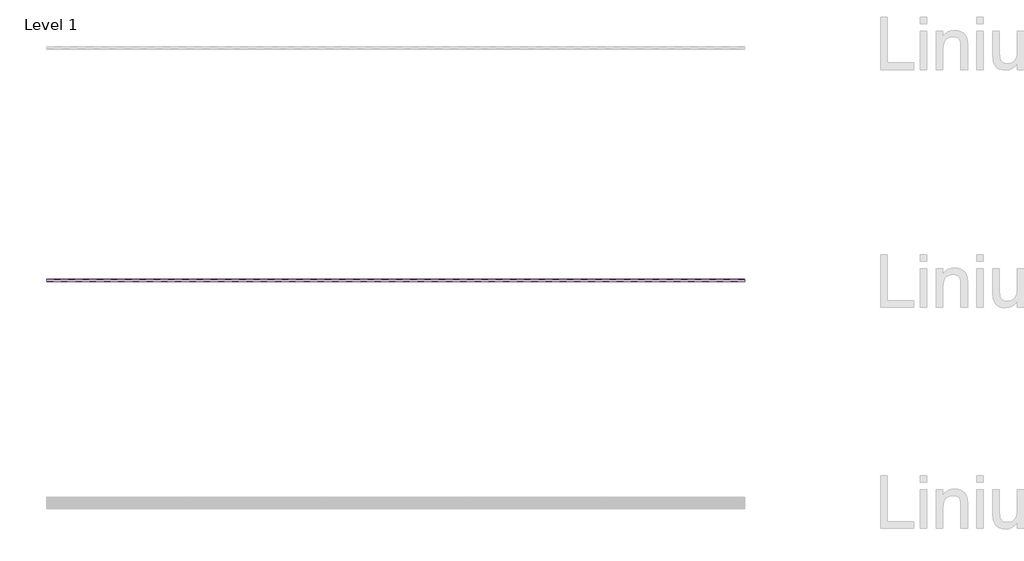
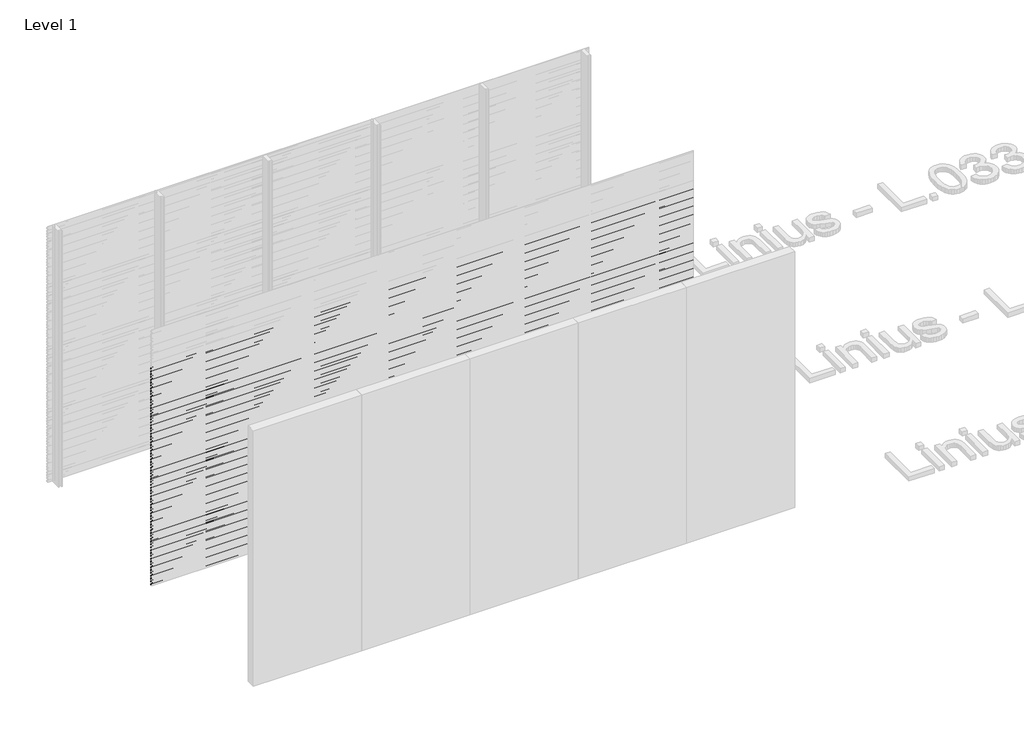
# One storey, part 16 of 507: 77 proxies.
"""IFC4 building model written with IfcOpenShell, lengths in millimetres."""

from ifc_helpers import new_model, si_unit, frame, origin, place, context, project, spatial, polyline, outline, extrude, element, save

model = new_model("IFC4")

# Units and contexts
model_context = context("Model", 3, world=origin())
ifc_project = project(units=[si_unit("LENGTHUNIT", "METRE", prefix="MILLI")], contexts=[model_context])

# Site, building, storey
site = spatial("IfcSite", under=ifc_project)
building = spatial("IfcBuilding", under=site)
storey = spatial("IfcBuildingStorey", under=building, Name="Level 1", Elevation=0.0)

# Proxies
placement = place(None, origin())
element("IfcBuildingElementProxy", 1, Name="Wall Sweeps", at=placement, inside=storey, context=model_context, shape_type="SweptSolid", body=[
    extrude(outline(polyline([(12003.4540136, 2540.1), (12003.4540136, 2526.6), (12002.2040136, 2527.3216933), (12002.2040136, 2539.3782281), (11983.0540136, 2550.4345698), (11983.0540136, 2564.1), (11984.3040136, 2564.1), (11984.3040136, 2551.1562577), (12003.4540136, 2540.1)])), frame((44966.6208097, 0.0, 0.0), z_axis=(1.0, 0.0, 0.0), x_axis=(0.0, 1.0, 0.0)), (0.0, 0.0, 1.0), 6000.0),
])
element("IfcBuildingElementProxy", 2, Name="Wall Sweeps", at=placement, inside=storey, context=model_context, shape_type="SweptSolid", body=[
    extrude(outline(polyline([(12003.4540136, 2506.8), (12003.4540136, 2493.3), (12002.2040136, 2494.0216933), (12002.2040136, 2506.0782281), (11983.0540136, 2517.1345698), (11983.0540136, 2530.8), (11984.3040136, 2530.8), (11984.3040136, 2517.8562577), (12003.4540136, 2506.8)])), frame((44966.6208097, 0.0, 0.0), z_axis=(1.0, 0.0, 0.0), x_axis=(0.0, 1.0, 0.0)), (0.0, 0.0, 1.0), 6000.0),
])
element("IfcBuildingElementProxy", 3, Name="Wall Sweeps", at=placement, inside=storey, context=model_context, shape_type="SweptSolid", body=[
    extrude(outline(polyline([(12003.4540136, 2473.5), (12003.4540136, 2460.0), (12002.2040136, 2460.7216933), (12002.2040136, 2472.7782281), (11983.0540136, 2483.8345698), (11983.0540136, 2497.5), (11984.3040136, 2497.5), (11984.3040136, 2484.5562577), (12003.4540136, 2473.5)])), frame((44966.6208097, 0.0, 0.0), z_axis=(1.0, 0.0, 0.0), x_axis=(0.0, 1.0, 0.0)), (0.0, 0.0, 1.0), 6000.0),
])
element("IfcBuildingElementProxy", 4, Name="Wall Sweeps", at=placement, inside=storey, context=model_context, shape_type="SweptSolid", body=[
    extrude(outline(polyline([(12003.4540136, 2440.2), (12003.4540136, 2426.7), (12002.2040136, 2427.4216933), (12002.2040136, 2439.4782281), (11983.0540136, 2450.5345698), (11983.0540136, 2464.2), (11984.3040136, 2464.2), (11984.3040136, 2451.2562577), (12003.4540136, 2440.2)])), frame((44966.6208097, 0.0, 0.0), z_axis=(1.0, 0.0, 0.0), x_axis=(0.0, 1.0, 0.0)), (0.0, 0.0, 1.0), 6000.0),
])
element("IfcBuildingElementProxy", 5, Name="Wall Sweeps", at=placement, inside=storey, context=model_context, shape_type="SweptSolid", body=[
    extrude(outline(polyline([(12003.4540136, 2406.9), (12003.4540136, 2393.4), (12002.2040136, 2394.1216933), (12002.2040136, 2406.1782281), (11983.0540136, 2417.2345698), (11983.0540136, 2430.9), (11984.3040136, 2430.9), (11984.3040136, 2417.9562577), (12003.4540136, 2406.9)])), frame((44966.6208097, 0.0, 0.0), z_axis=(1.0, 0.0, 0.0), x_axis=(0.0, 1.0, 0.0)), (0.0, 0.0, 1.0), 6000.0),
])
element("IfcBuildingElementProxy", 6, Name="Wall Sweeps", at=placement, inside=storey, context=model_context, shape_type="SweptSolid", body=[
    extrude(outline(polyline([(12003.4540136, 2373.6), (12003.4540136, 2360.1), (12002.2040136, 2360.8216933), (12002.2040136, 2372.8782281), (11983.0540136, 2383.9345698), (11983.0540136, 2397.6), (11984.3040136, 2397.6), (11984.3040136, 2384.6562577), (12003.4540136, 2373.6)])), frame((44966.6208097, 0.0, 0.0), z_axis=(1.0, 0.0, 0.0), x_axis=(0.0, 1.0, 0.0)), (0.0, 0.0, 1.0), 6000.0),
])
element("IfcBuildingElementProxy", 7, Name="Wall Sweeps", at=placement, inside=storey, context=model_context, shape_type="SweptSolid", body=[
    extrude(outline(polyline([(12003.4540136, 2340.3), (12003.4540136, 2326.8), (12002.2040136, 2327.5216933), (12002.2040136, 2339.5782281), (11983.0540136, 2350.6345698), (11983.0540136, 2364.3), (11984.3040136, 2364.3), (11984.3040136, 2351.3562577), (12003.4540136, 2340.3)])), frame((44966.6208097, 0.0, 0.0), z_axis=(1.0, 0.0, 0.0), x_axis=(0.0, 1.0, 0.0)), (0.0, 0.0, 1.0), 6000.0),
])
element("IfcBuildingElementProxy", 8, Name="Wall Sweeps", at=placement, inside=storey, context=model_context, shape_type="SweptSolid", body=[
    extrude(outline(polyline([(12003.4540136, 2307.0), (12003.4540136, 2293.5), (12002.2040136, 2294.2216933), (12002.2040136, 2306.2782281), (11983.0540136, 2317.3345698), (11983.0540136, 2331.0), (11984.3040136, 2331.0), (11984.3040136, 2318.0562577), (12003.4540136, 2307.0)])), frame((44966.6208097, 0.0, 0.0), z_axis=(1.0, 0.0, 0.0), x_axis=(0.0, 1.0, 0.0)), (0.0, 0.0, 1.0), 6000.0),
])
element("IfcBuildingElementProxy", 9, Name="Wall Sweeps", at=placement, inside=storey, context=model_context, shape_type="SweptSolid", body=[
    extrude(outline(polyline([(12003.4540136, 2273.7), (12003.4540136, 2260.2), (12002.2040136, 2260.9216933), (12002.2040136, 2272.9782281), (11983.0540136, 2284.0345698), (11983.0540136, 2297.7), (11984.3040136, 2297.7), (11984.3040136, 2284.7562577), (12003.4540136, 2273.7)])), frame((44966.6208097, 0.0, 0.0), z_axis=(1.0, 0.0, 0.0), x_axis=(0.0, 1.0, 0.0)), (0.0, 0.0, 1.0), 6000.0),
])
element("IfcBuildingElementProxy", 10, Name="Wall Sweeps", at=placement, inside=storey, context=model_context, shape_type="SweptSolid", body=[
    extrude(outline(polyline([(12003.4540136, 2240.4), (12003.4540136, 2226.9), (12002.2040136, 2227.6216933), (12002.2040136, 2239.6782281), (11983.0540136, 2250.7345698), (11983.0540136, 2264.4), (11984.3040136, 2264.4), (11984.3040136, 2251.4562577), (12003.4540136, 2240.4)])), frame((44966.6208097, 0.0, 0.0), z_axis=(1.0, 0.0, 0.0), x_axis=(0.0, 1.0, 0.0)), (0.0, 0.0, 1.0), 6000.0),
])
element("IfcBuildingElementProxy", 11, Name="Wall Sweeps", at=placement, inside=storey, context=model_context, shape_type="SweptSolid", body=[
    extrude(outline(polyline([(12003.4540136, 2207.1), (12003.4540136, 2193.6), (12002.2040136, 2194.3216933), (12002.2040136, 2206.3782281), (11983.0540136, 2217.4345698), (11983.0540136, 2231.1), (11984.3040136, 2231.1), (11984.3040136, 2218.1562577), (12003.4540136, 2207.1)])), frame((44966.6208097, 0.0, 0.0), z_axis=(1.0, 0.0, 0.0), x_axis=(0.0, 1.0, 0.0)), (0.0, 0.0, 1.0), 6000.0),
])
element("IfcBuildingElementProxy", 12, Name="Wall Sweeps", at=placement, inside=storey, context=model_context, shape_type="SweptSolid", body=[
    extrude(outline(polyline([(12003.4540136, 2173.8), (12003.4540136, 2160.3), (12002.2040136, 2161.0216933), (12002.2040136, 2173.0782281), (11983.0540136, 2184.1345698), (11983.0540136, 2197.8), (11984.3040136, 2197.8), (11984.3040136, 2184.8562577), (12003.4540136, 2173.8)])), frame((44966.6208097, 0.0, 0.0), z_axis=(1.0, 0.0, 0.0), x_axis=(0.0, 1.0, 0.0)), (0.0, 0.0, 1.0), 6000.0),
])
element("IfcBuildingElementProxy", 13, Name="Wall Sweeps", at=placement, inside=storey, context=model_context, shape_type="SweptSolid", body=[
    extrude(outline(polyline([(12003.4540136, 2140.5), (12003.4540136, 2127.0), (12002.2040136, 2127.7216933), (12002.2040136, 2139.7782281), (11983.0540136, 2150.8345698), (11983.0540136, 2164.5), (11984.3040136, 2164.5), (11984.3040136, 2151.5562577), (12003.4540136, 2140.5)])), frame((44966.6208097, 0.0, 0.0), z_axis=(1.0, 0.0, 0.0), x_axis=(0.0, 1.0, 0.0)), (0.0, 0.0, 1.0), 6000.0),
])
element("IfcBuildingElementProxy", 14, Name="Wall Sweeps", at=placement, inside=storey, context=model_context, shape_type="SweptSolid", body=[
    extrude(outline(polyline([(12003.4540136, 2107.2), (12003.4540136, 2093.7), (12002.2040136, 2094.4216933), (12002.2040136, 2106.4782281), (11983.0540136, 2117.5345698), (11983.0540136, 2131.2), (11984.3040136, 2131.2), (11984.3040136, 2118.2562577), (12003.4540136, 2107.2)])), frame((44966.6208097, 0.0, 0.0), z_axis=(1.0, 0.0, 0.0), x_axis=(0.0, 1.0, 0.0)), (0.0, 0.0, 1.0), 6000.0),
])
element("IfcBuildingElementProxy", 15, Name="Wall Sweeps", at=placement, inside=storey, context=model_context, shape_type="SweptSolid", body=[
    extrude(outline(polyline([(12003.4540136, 2073.9), (12003.4540136, 2060.4), (12002.2040136, 2061.1216933), (12002.2040136, 2073.1782281), (11983.0540136, 2084.2345698), (11983.0540136, 2097.9), (11984.3040136, 2097.9), (11984.3040136, 2084.9562577), (12003.4540136, 2073.9)])), frame((44966.6208097, 0.0, 0.0), z_axis=(1.0, 0.0, 0.0), x_axis=(0.0, 1.0, 0.0)), (0.0, 0.0, 1.0), 6000.0),
])
element("IfcBuildingElementProxy", 16, Name="Wall Sweeps", at=placement, inside=storey, context=model_context, shape_type="SweptSolid", body=[
    extrude(outline(polyline([(12003.4540136, 2040.6), (12003.4540136, 2027.1), (12002.2040136, 2027.8216933), (12002.2040136, 2039.8782281), (11983.0540136, 2050.9345698), (11983.0540136, 2064.6), (11984.3040136, 2064.6), (11984.3040136, 2051.6562577), (12003.4540136, 2040.6)])), frame((44966.6208097, 0.0, 0.0), z_axis=(1.0, 0.0, 0.0), x_axis=(0.0, 1.0, 0.0)), (0.0, 0.0, 1.0), 6000.0),
])
element("IfcBuildingElementProxy", 17, Name="Wall Sweeps", at=placement, inside=storey, context=model_context, shape_type="SweptSolid", body=[
    extrude(outline(polyline([(12003.4540136, 2007.3), (12003.4540136, 1993.8), (12002.2040136, 1994.5216933), (12002.2040136, 2006.5782281), (11983.0540136, 2017.6345698), (11983.0540136, 2031.3), (11984.3040136, 2031.3), (11984.3040136, 2018.3562577), (12003.4540136, 2007.3)])), frame((44966.6208097, 0.0, 0.0), z_axis=(1.0, 0.0, 0.0), x_axis=(0.0, 1.0, 0.0)), (0.0, 0.0, 1.0), 6000.0),
])
element("IfcBuildingElementProxy", 18, Name="Wall Sweeps", at=placement, inside=storey, context=model_context, shape_type="SweptSolid", body=[
    extrude(outline(polyline([(12003.4540136, 1974.0), (12003.4540136, 1960.5), (12002.2040136, 1961.2216933), (12002.2040136, 1973.2782281), (11983.0540136, 1984.3345698), (11983.0540136, 1998.0), (11984.3040136, 1998.0), (11984.3040136, 1985.0562577), (12003.4540136, 1974.0)])), frame((44966.6208097, 0.0, 0.0), z_axis=(1.0, 0.0, 0.0), x_axis=(0.0, 1.0, 0.0)), (0.0, 0.0, 1.0), 6000.0),
])
element("IfcBuildingElementProxy", 19, Name="Wall Sweeps", at=placement, inside=storey, context=model_context, shape_type="SweptSolid", body=[
    extrude(outline(polyline([(12003.4540136, 1940.7), (12003.4540136, 1927.2), (12002.2040136, 1927.9216933), (12002.2040136, 1939.9782281), (11983.0540136, 1951.0345698), (11983.0540136, 1964.7), (11984.3040136, 1964.7), (11984.3040136, 1951.7562577), (12003.4540136, 1940.7)])), frame((44966.6208097, 0.0, 0.0), z_axis=(1.0, 0.0, 0.0), x_axis=(0.0, 1.0, 0.0)), (0.0, 0.0, 1.0), 6000.0),
])
element("IfcBuildingElementProxy", 20, Name="Wall Sweeps", at=placement, inside=storey, context=model_context, shape_type="SweptSolid", body=[
    extrude(outline(polyline([(12003.4540136, 1907.4), (12003.4540136, 1893.9), (12002.2040136, 1894.6216933), (12002.2040136, 1906.6782281), (11983.0540136, 1917.7345698), (11983.0540136, 1931.4), (11984.3040136, 1931.4), (11984.3040136, 1918.4562577), (12003.4540136, 1907.4)])), frame((44966.6208097, 0.0, 0.0), z_axis=(1.0, 0.0, 0.0), x_axis=(0.0, 1.0, 0.0)), (0.0, 0.0, 1.0), 6000.0),
])
element("IfcBuildingElementProxy", 21, Name="Wall Sweeps", at=placement, inside=storey, context=model_context, shape_type="SweptSolid", body=[
    extrude(outline(polyline([(12003.4540136, 1874.1), (12003.4540136, 1860.6), (12002.2040136, 1861.3216933), (12002.2040136, 1873.3782281), (11983.0540136, 1884.4345698), (11983.0540136, 1898.1), (11984.3040136, 1898.1), (11984.3040136, 1885.1562577), (12003.4540136, 1874.1)])), frame((44966.6208097, 0.0, 0.0), z_axis=(1.0, 0.0, 0.0), x_axis=(0.0, 1.0, 0.0)), (0.0, 0.0, 1.0), 6000.0),
])
element("IfcBuildingElementProxy", 22, Name="Wall Sweeps", at=placement, inside=storey, context=model_context, shape_type="SweptSolid", body=[
    extrude(outline(polyline([(12003.4540136, 1840.8), (12003.4540136, 1827.3), (12002.2040136, 1828.0216933), (12002.2040136, 1840.0782281), (11983.0540136, 1851.1345698), (11983.0540136, 1864.8), (11984.3040136, 1864.8), (11984.3040136, 1851.8562577), (12003.4540136, 1840.8)])), frame((44966.6208097, 0.0, 0.0), z_axis=(1.0, 0.0, 0.0), x_axis=(0.0, 1.0, 0.0)), (0.0, 0.0, 1.0), 6000.0),
])
element("IfcBuildingElementProxy", 23, Name="Wall Sweeps", at=placement, inside=storey, context=model_context, shape_type="SweptSolid", body=[
    extrude(outline(polyline([(12003.4540136, 1807.5), (12003.4540136, 1794.0), (12002.2040136, 1794.7216933), (12002.2040136, 1806.7782281), (11983.0540136, 1817.8345698), (11983.0540136, 1831.5), (11984.3040136, 1831.5), (11984.3040136, 1818.5562577), (12003.4540136, 1807.5)])), frame((44966.6208097, 0.0, 0.0), z_axis=(1.0, 0.0, 0.0), x_axis=(0.0, 1.0, 0.0)), (0.0, 0.0, 1.0), 6000.0),
])
element("IfcBuildingElementProxy", 24, Name="Wall Sweeps", at=placement, inside=storey, context=model_context, shape_type="SweptSolid", body=[
    extrude(outline(polyline([(12003.4540136, 1774.2), (12003.4540136, 1760.7), (12002.2040136, 1761.4216933), (12002.2040136, 1773.4782281), (11983.0540136, 1784.5345698), (11983.0540136, 1798.2), (11984.3040136, 1798.2), (11984.3040136, 1785.2562577), (12003.4540136, 1774.2)])), frame((44966.6208097, 0.0, 0.0), z_axis=(1.0, 0.0, 0.0), x_axis=(0.0, 1.0, 0.0)), (0.0, 0.0, 1.0), 6000.0),
])
element("IfcBuildingElementProxy", 25, Name="Wall Sweeps", at=placement, inside=storey, context=model_context, shape_type="SweptSolid", body=[
    extrude(outline(polyline([(12003.4540136, 1740.9), (12003.4540136, 1727.4), (12002.2040136, 1728.1216933), (12002.2040136, 1740.1782281), (11983.0540136, 1751.2345698), (11983.0540136, 1764.9), (11984.3040136, 1764.9), (11984.3040136, 1751.9562577), (12003.4540136, 1740.9)])), frame((44966.6208097, 0.0, 0.0), z_axis=(1.0, 0.0, 0.0), x_axis=(0.0, 1.0, 0.0)), (0.0, 0.0, 1.0), 6000.0),
])
element("IfcBuildingElementProxy", 26, Name="Wall Sweeps", at=placement, inside=storey, context=model_context, shape_type="SweptSolid", body=[
    extrude(outline(polyline([(12003.4540136, 1707.6), (12003.4540136, 1694.1), (12002.2040136, 1694.8216933), (12002.2040136, 1706.8782281), (11983.0540136, 1717.9345698), (11983.0540136, 1731.6), (11984.3040136, 1731.6), (11984.3040136, 1718.6562577), (12003.4540136, 1707.6)])), frame((44966.6208097, 0.0, 0.0), z_axis=(1.0, 0.0, 0.0), x_axis=(0.0, 1.0, 0.0)), (0.0, 0.0, 1.0), 6000.0),
])
element("IfcBuildingElementProxy", 27, Name="Wall Sweeps", at=placement, inside=storey, context=model_context, shape_type="SweptSolid", body=[
    extrude(outline(polyline([(12003.4540136, 1674.3), (12003.4540136, 1660.8), (12002.2040136, 1661.5216933), (12002.2040136, 1673.5782281), (11983.0540136, 1684.6345698), (11983.0540136, 1698.3), (11984.3040136, 1698.3), (11984.3040136, 1685.3562577), (12003.4540136, 1674.3)])), frame((44966.6208097, 0.0, 0.0), z_axis=(1.0, 0.0, 0.0), x_axis=(0.0, 1.0, 0.0)), (0.0, 0.0, 1.0), 6000.0),
])
element("IfcBuildingElementProxy", 28, Name="Wall Sweeps", at=placement, inside=storey, context=model_context, shape_type="SweptSolid", body=[
    extrude(outline(polyline([(12003.4540136, 1641.0), (12003.4540136, 1627.5), (12002.2040136, 1628.2216933), (12002.2040136, 1640.2782281), (11983.0540136, 1651.3345698), (11983.0540136, 1665.0), (11984.3040136, 1665.0), (11984.3040136, 1652.0562577), (12003.4540136, 1641.0)])), frame((44966.6208097, 0.0, 0.0), z_axis=(1.0, 0.0, 0.0), x_axis=(0.0, 1.0, 0.0)), (0.0, 0.0, 1.0), 6000.0),
])
element("IfcBuildingElementProxy", 29, Name="Wall Sweeps", at=placement, inside=storey, context=model_context, shape_type="SweptSolid", body=[
    extrude(outline(polyline([(12003.4540136, 1607.7), (12003.4540136, 1594.2), (12002.2040136, 1594.9216933), (12002.2040136, 1606.9782281), (11983.0540136, 1618.0345698), (11983.0540136, 1631.7), (11984.3040136, 1631.7), (11984.3040136, 1618.7562577), (12003.4540136, 1607.7)])), frame((44966.6208097, 0.0, 0.0), z_axis=(1.0, 0.0, 0.0), x_axis=(0.0, 1.0, 0.0)), (0.0, 0.0, 1.0), 6000.0),
])
element("IfcBuildingElementProxy", 30, Name="Wall Sweeps", at=placement, inside=storey, context=model_context, shape_type="SweptSolid", body=[
    extrude(outline(polyline([(12003.4540136, 1574.4), (12003.4540136, 1560.9), (12002.2040136, 1561.6216933), (12002.2040136, 1573.6782281), (11983.0540136, 1584.7345698), (11983.0540136, 1598.4), (11984.3040136, 1598.4), (11984.3040136, 1585.4562577), (12003.4540136, 1574.4)])), frame((44966.6208097, 0.0, 0.0), z_axis=(1.0, 0.0, 0.0), x_axis=(0.0, 1.0, 0.0)), (0.0, 0.0, 1.0), 6000.0),
])
element("IfcBuildingElementProxy", 31, Name="Wall Sweeps", at=placement, inside=storey, context=model_context, shape_type="SweptSolid", body=[
    extrude(outline(polyline([(12003.4540136, 1541.1), (12003.4540136, 1527.6), (12002.2040136, 1528.3216933), (12002.2040136, 1540.3782281), (11983.0540136, 1551.4345698), (11983.0540136, 1565.1), (11984.3040136, 1565.1), (11984.3040136, 1552.1562577), (12003.4540136, 1541.1)])), frame((44966.6208097, 0.0, 0.0), z_axis=(1.0, 0.0, 0.0), x_axis=(0.0, 1.0, 0.0)), (0.0, 0.0, 1.0), 6000.0),
])
element("IfcBuildingElementProxy", 32, Name="Wall Sweeps", at=placement, inside=storey, context=model_context, shape_type="SweptSolid", body=[
    extrude(outline(polyline([(12003.4540136, 1507.8), (12003.4540136, 1494.3), (12002.2040136, 1495.0216933), (12002.2040136, 1507.0782281), (11983.0540136, 1518.1345698), (11983.0540136, 1531.8), (11984.3040136, 1531.8), (11984.3040136, 1518.8562577), (12003.4540136, 1507.8)])), frame((44966.6208097, 0.0, 0.0), z_axis=(1.0, 0.0, 0.0), x_axis=(0.0, 1.0, 0.0)), (0.0, 0.0, 1.0), 6000.0),
])
element("IfcBuildingElementProxy", 33, Name="Wall Sweeps", at=placement, inside=storey, context=model_context, shape_type="SweptSolid", body=[
    extrude(outline(polyline([(12003.4540136, 1474.5), (12003.4540136, 1461.0), (12002.2040136, 1461.7216933), (12002.2040136, 1473.7782281), (11983.0540136, 1484.8345698), (11983.0540136, 1498.5), (11984.3040136, 1498.5), (11984.3040136, 1485.5562577), (12003.4540136, 1474.5)])), frame((44966.6208097, 0.0, 0.0), z_axis=(1.0, 0.0, 0.0), x_axis=(0.0, 1.0, 0.0)), (0.0, 0.0, 1.0), 6000.0),
])
element("IfcBuildingElementProxy", 34, Name="Wall Sweeps", at=placement, inside=storey, context=model_context, shape_type="SweptSolid", body=[
    extrude(outline(polyline([(12003.4540136, 1441.2), (12003.4540136, 1427.7), (12002.2040136, 1428.4216933), (12002.2040136, 1440.4782281), (11983.0540136, 1451.5345698), (11983.0540136, 1465.2), (11984.3040136, 1465.2), (11984.3040136, 1452.2562577), (12003.4540136, 1441.2)])), frame((44966.6208097, 0.0, 0.0), z_axis=(1.0, 0.0, 0.0), x_axis=(0.0, 1.0, 0.0)), (0.0, 0.0, 1.0), 6000.0),
])
element("IfcBuildingElementProxy", 35, Name="Wall Sweeps", at=placement, inside=storey, context=model_context, shape_type="SweptSolid", body=[
    extrude(outline(polyline([(12003.4540136, 1407.9), (12003.4540136, 1394.4), (12002.2040136, 1395.1216933), (12002.2040136, 1407.1782281), (11983.0540136, 1418.2345698), (11983.0540136, 1431.9), (11984.3040136, 1431.9), (11984.3040136, 1418.9562577), (12003.4540136, 1407.9)])), frame((44966.6208097, 0.0, 0.0), z_axis=(1.0, 0.0, 0.0), x_axis=(0.0, 1.0, 0.0)), (0.0, 0.0, 1.0), 6000.0),
])
element("IfcBuildingElementProxy", 36, Name="Wall Sweeps", at=placement, inside=storey, context=model_context, shape_type="SweptSolid", body=[
    extrude(outline(polyline([(12003.4540136, 1374.6), (12003.4540136, 1361.1), (12002.2040136, 1361.8216933), (12002.2040136, 1373.8782281), (11983.0540136, 1384.9345698), (11983.0540136, 1398.6), (11984.3040136, 1398.6), (11984.3040136, 1385.6562577), (12003.4540136, 1374.6)])), frame((44966.6208097, 0.0, 0.0), z_axis=(1.0, 0.0, 0.0), x_axis=(0.0, 1.0, 0.0)), (0.0, 0.0, 1.0), 6000.0),
])
element("IfcBuildingElementProxy", 37, Name="Wall Sweeps", at=placement, inside=storey, context=model_context, shape_type="SweptSolid", body=[
    extrude(outline(polyline([(12003.4540136, 1341.3), (12003.4540136, 1327.8), (12002.2040136, 1328.5216933), (12002.2040136, 1340.5782281), (11983.0540136, 1351.6345698), (11983.0540136, 1365.3), (11984.3040136, 1365.3), (11984.3040136, 1352.3562577), (12003.4540136, 1341.3)])), frame((44966.6208097, 0.0, 0.0), z_axis=(1.0, 0.0, 0.0), x_axis=(0.0, 1.0, 0.0)), (0.0, 0.0, 1.0), 6000.0),
])
element("IfcBuildingElementProxy", 38, Name="Wall Sweeps", at=placement, inside=storey, context=model_context, shape_type="SweptSolid", body=[
    extrude(outline(polyline([(12003.4540136, 1308.0), (12003.4540136, 1294.5), (12002.2040136, 1295.2216933), (12002.2040136, 1307.2782281), (11983.0540136, 1318.3345698), (11983.0540136, 1332.0), (11984.3040136, 1332.0), (11984.3040136, 1319.0562577), (12003.4540136, 1308.0)])), frame((44966.6208097, 0.0, 0.0), z_axis=(1.0, 0.0, 0.0), x_axis=(0.0, 1.0, 0.0)), (0.0, 0.0, 1.0), 6000.0),
])
element("IfcBuildingElementProxy", 39, Name="Wall Sweeps", at=placement, inside=storey, context=model_context, shape_type="SweptSolid", body=[
    extrude(outline(polyline([(12003.4540136, 1274.7), (12003.4540136, 1261.2), (12002.2040136, 1261.9216933), (12002.2040136, 1273.9782281), (11983.0540136, 1285.0345698), (11983.0540136, 1298.7), (11984.3040136, 1298.7), (11984.3040136, 1285.7562577), (12003.4540136, 1274.7)])), frame((44966.6208097, 0.0, 0.0), z_axis=(1.0, 0.0, 0.0), x_axis=(0.0, 1.0, 0.0)), (0.0, 0.0, 1.0), 6000.0),
])
element("IfcBuildingElementProxy", 40, Name="Wall Sweeps", at=placement, inside=storey, context=model_context, shape_type="SweptSolid", body=[
    extrude(outline(polyline([(12003.4540136, 1241.4), (12003.4540136, 1227.9), (12002.2040136, 1228.6216933), (12002.2040136, 1240.6782281), (11983.0540136, 1251.7345698), (11983.0540136, 1265.4), (11984.3040136, 1265.4), (11984.3040136, 1252.4562577), (12003.4540136, 1241.4)])), frame((44966.6208097, 0.0, 0.0), z_axis=(1.0, 0.0, 0.0), x_axis=(0.0, 1.0, 0.0)), (0.0, 0.0, 1.0), 6000.0),
])
element("IfcBuildingElementProxy", 41, Name="Wall Sweeps", at=placement, inside=storey, context=model_context, shape_type="SweptSolid", body=[
    extrude(outline(polyline([(12003.4540136, 1208.1), (12003.4540136, 1194.6), (12002.2040136, 1195.3216933), (12002.2040136, 1207.3782281), (11983.0540136, 1218.4345698), (11983.0540136, 1232.1), (11984.3040136, 1232.1), (11984.3040136, 1219.1562577), (12003.4540136, 1208.1)])), frame((44966.6208097, 0.0, 0.0), z_axis=(1.0, 0.0, 0.0), x_axis=(0.0, 1.0, 0.0)), (0.0, 0.0, 1.0), 6000.0),
])
element("IfcBuildingElementProxy", 42, Name="Wall Sweeps", at=placement, inside=storey, context=model_context, shape_type="SweptSolid", body=[
    extrude(outline(polyline([(12003.4540136, 1174.8), (12003.4540136, 1161.3), (12002.2040136, 1162.0216933), (12002.2040136, 1174.0782281), (11983.0540136, 1185.1345698), (11983.0540136, 1198.8), (11984.3040136, 1198.8), (11984.3040136, 1185.8562577), (12003.4540136, 1174.8)])), frame((44966.6208097, 0.0, 0.0), z_axis=(1.0, 0.0, 0.0), x_axis=(0.0, 1.0, 0.0)), (0.0, 0.0, 1.0), 6000.0),
])
element("IfcBuildingElementProxy", 43, Name="Wall Sweeps", at=placement, inside=storey, context=model_context, shape_type="SweptSolid", body=[
    extrude(outline(polyline([(12003.4540136, 1141.5), (12003.4540136, 1128.0), (12002.2040136, 1128.7216933), (12002.2040136, 1140.7782281), (11983.0540136, 1151.8345698), (11983.0540136, 1165.5), (11984.3040136, 1165.5), (11984.3040136, 1152.5562577), (12003.4540136, 1141.5)])), frame((44966.6208097, 0.0, 0.0), z_axis=(1.0, 0.0, 0.0), x_axis=(0.0, 1.0, 0.0)), (0.0, 0.0, 1.0), 6000.0),
])
element("IfcBuildingElementProxy", 44, Name="Wall Sweeps", at=placement, inside=storey, context=model_context, shape_type="SweptSolid", body=[
    extrude(outline(polyline([(12003.4540136, 1108.2), (12003.4540136, 1094.7), (12002.2040136, 1095.4216933), (12002.2040136, 1107.4782281), (11983.0540136, 1118.5345698), (11983.0540136, 1132.2), (11984.3040136, 1132.2), (11984.3040136, 1119.2562577), (12003.4540136, 1108.2)])), frame((44966.6208097, 0.0, 0.0), z_axis=(1.0, 0.0, 0.0), x_axis=(0.0, 1.0, 0.0)), (0.0, 0.0, 1.0), 6000.0),
])
element("IfcBuildingElementProxy", 45, Name="Wall Sweeps", at=placement, inside=storey, context=model_context, shape_type="SweptSolid", body=[
    extrude(outline(polyline([(12003.4540136, 1074.9), (12003.4540136, 1061.4), (12002.2040136, 1062.1216933), (12002.2040136, 1074.1782281), (11983.0540136, 1085.2345698), (11983.0540136, 1098.9), (11984.3040136, 1098.9), (11984.3040136, 1085.9562577), (12003.4540136, 1074.9)])), frame((44966.6208097, 0.0, 0.0), z_axis=(1.0, 0.0, 0.0), x_axis=(0.0, 1.0, 0.0)), (0.0, 0.0, 1.0), 6000.0),
])
element("IfcBuildingElementProxy", 46, Name="Wall Sweeps", at=placement, inside=storey, context=model_context, shape_type="SweptSolid", body=[
    extrude(outline(polyline([(12003.4540136, 1041.6), (12003.4540136, 1028.1), (12002.2040136, 1028.8216933), (12002.2040136, 1040.8782281), (11983.0540136, 1051.9345698), (11983.0540136, 1065.6), (11984.3040136, 1065.6), (11984.3040136, 1052.6562577), (12003.4540136, 1041.6)])), frame((44966.6208097, 0.0, 0.0), z_axis=(1.0, 0.0, 0.0), x_axis=(0.0, 1.0, 0.0)), (0.0, 0.0, 1.0), 6000.0),
])
element("IfcBuildingElementProxy", 47, Name="Wall Sweeps", at=placement, inside=storey, context=model_context, shape_type="SweptSolid", body=[
    extrude(outline(polyline([(12003.4540136, 1008.3), (12003.4540136, 994.8), (12002.2040136, 995.5216933), (12002.2040136, 1007.5782281), (11983.0540136, 1018.6345698), (11983.0540136, 1032.3), (11984.3040136, 1032.3), (11984.3040136, 1019.3562577), (12003.4540136, 1008.3)])), frame((44966.6208097, 0.0, 0.0), z_axis=(1.0, 0.0, 0.0), x_axis=(0.0, 1.0, 0.0)), (0.0, 0.0, 1.0), 6000.0),
])
element("IfcBuildingElementProxy", 48, Name="Wall Sweeps", at=placement, inside=storey, context=model_context, shape_type="SweptSolid", body=[
    extrude(outline(polyline([(12003.4540136, 975.0), (12003.4540136, 961.5), (12002.2040136, 962.2216933), (12002.2040136, 974.2782281), (11983.0540136, 985.3345698), (11983.0540136, 999.0), (11984.3040136, 999.0), (11984.3040136, 986.0562577), (12003.4540136, 975.0)])), frame((44966.6208097, 0.0, 0.0), z_axis=(1.0, 0.0, 0.0), x_axis=(0.0, 1.0, 0.0)), (0.0, 0.0, 1.0), 6000.0),
])
element("IfcBuildingElementProxy", 49, Name="Wall Sweeps", at=placement, inside=storey, context=model_context, shape_type="SweptSolid", body=[
    extrude(outline(polyline([(12003.4540136, 941.7), (12003.4540136, 928.2), (12002.2040136, 928.9216933), (12002.2040136, 940.9782281), (11983.0540136, 952.0345698), (11983.0540136, 965.7), (11984.3040136, 965.7), (11984.3040136, 952.7562577), (12003.4540136, 941.7)])), frame((44966.6208097, 0.0, 0.0), z_axis=(1.0, 0.0, 0.0), x_axis=(0.0, 1.0, 0.0)), (0.0, 0.0, 1.0), 6000.0),
])
element("IfcBuildingElementProxy", 50, Name="Wall Sweeps", at=placement, inside=storey, context=model_context, shape_type="SweptSolid", body=[
    extrude(outline(polyline([(12003.4540136, 908.4), (12003.4540136, 894.9), (12002.2040136, 895.6216933), (12002.2040136, 907.6782281), (11983.0540136, 918.7345698), (11983.0540136, 932.4), (11984.3040136, 932.4), (11984.3040136, 919.4562577), (12003.4540136, 908.4)])), frame((44966.6208097, 0.0, 0.0), z_axis=(1.0, 0.0, 0.0), x_axis=(0.0, 1.0, 0.0)), (0.0, 0.0, 1.0), 6000.0),
])
element("IfcBuildingElementProxy", 51, Name="Wall Sweeps", at=placement, inside=storey, context=model_context, shape_type="SweptSolid", body=[
    extrude(outline(polyline([(12003.4540136, 875.1), (12003.4540136, 861.6), (12002.2040136, 862.3216933), (12002.2040136, 874.3782281), (11983.0540136, 885.4345698), (11983.0540136, 899.1), (11984.3040136, 899.1), (11984.3040136, 886.1562577), (12003.4540136, 875.1)])), frame((44966.6208097, 0.0, 0.0), z_axis=(1.0, 0.0, 0.0), x_axis=(0.0, 1.0, 0.0)), (0.0, 0.0, 1.0), 6000.0),
])
element("IfcBuildingElementProxy", 52, Name="Wall Sweeps", at=placement, inside=storey, context=model_context, shape_type="SweptSolid", body=[
    extrude(outline(polyline([(12003.4540136, 841.8), (12003.4540136, 828.3), (12002.2040136, 829.0216933), (12002.2040136, 841.0782281), (11983.0540136, 852.1345698), (11983.0540136, 865.8), (11984.3040136, 865.8), (11984.3040136, 852.8562577), (12003.4540136, 841.8)])), frame((44966.6208097, 0.0, 0.0), z_axis=(1.0, 0.0, 0.0), x_axis=(0.0, 1.0, 0.0)), (0.0, 0.0, 1.0), 6000.0),
])
element("IfcBuildingElementProxy", 53, Name="Wall Sweeps", at=placement, inside=storey, context=model_context, shape_type="SweptSolid", body=[
    extrude(outline(polyline([(12003.4540136, 808.5), (12003.4540136, 795.0), (12002.2040136, 795.7216933), (12002.2040136, 807.7782281), (11983.0540136, 818.8345698), (11983.0540136, 832.5), (11984.3040136, 832.5), (11984.3040136, 819.5562577), (12003.4540136, 808.5)])), frame((44966.6208097, 0.0, 0.0), z_axis=(1.0, 0.0, 0.0), x_axis=(0.0, 1.0, 0.0)), (0.0, 0.0, 1.0), 6000.0),
])
element("IfcBuildingElementProxy", 54, Name="Wall Sweeps", at=placement, inside=storey, context=model_context, shape_type="SweptSolid", body=[
    extrude(outline(polyline([(12003.4540136, 775.2), (12003.4540136, 761.7), (12002.2040136, 762.4216933), (12002.2040136, 774.4782281), (11983.0540136, 785.5345698), (11983.0540136, 799.2), (11984.3040136, 799.2), (11984.3040136, 786.2562577), (12003.4540136, 775.2)])), frame((44966.6208097, 0.0, 0.0), z_axis=(1.0, 0.0, 0.0), x_axis=(0.0, 1.0, 0.0)), (0.0, 0.0, 1.0), 6000.0),
])
element("IfcBuildingElementProxy", 55, Name="Wall Sweeps", at=placement, inside=storey, context=model_context, shape_type="SweptSolid", body=[
    extrude(outline(polyline([(12003.4540136, 741.9), (12003.4540136, 728.4), (12002.2040136, 729.1216933), (12002.2040136, 741.1782281), (11983.0540136, 752.2345698), (11983.0540136, 765.9), (11984.3040136, 765.9), (11984.3040136, 752.9562577), (12003.4540136, 741.9)])), frame((44966.6208097, 0.0, 0.0), z_axis=(1.0, 0.0, 0.0), x_axis=(0.0, 1.0, 0.0)), (0.0, 0.0, 1.0), 6000.0),
])
element("IfcBuildingElementProxy", 56, Name="Wall Sweeps", at=placement, inside=storey, context=model_context, shape_type="SweptSolid", body=[
    extrude(outline(polyline([(12003.4540136, 708.6), (12003.4540136, 695.1), (12002.2040136, 695.8216933), (12002.2040136, 707.8782281), (11983.0540136, 718.9345698), (11983.0540136, 732.6), (11984.3040136, 732.6), (11984.3040136, 719.6562577), (12003.4540136, 708.6)])), frame((44966.6208097, 0.0, 0.0), z_axis=(1.0, 0.0, 0.0), x_axis=(0.0, 1.0, 0.0)), (0.0, 0.0, 1.0), 6000.0),
])
element("IfcBuildingElementProxy", 57, Name="Wall Sweeps", at=placement, inside=storey, context=model_context, shape_type="SweptSolid", body=[
    extrude(outline(polyline([(12003.4540136, 675.3), (12003.4540136, 661.8), (12002.2040136, 662.5216933), (12002.2040136, 674.5782281), (11983.0540136, 685.6345698), (11983.0540136, 699.3), (11984.3040136, 699.3), (11984.3040136, 686.3562577), (12003.4540136, 675.3)])), frame((44966.6208097, 0.0, 0.0), z_axis=(1.0, 0.0, 0.0), x_axis=(0.0, 1.0, 0.0)), (0.0, 0.0, 1.0), 6000.0),
])
element("IfcBuildingElementProxy", 58, Name="Wall Sweeps", at=placement, inside=storey, context=model_context, shape_type="SweptSolid", body=[
    extrude(outline(polyline([(12003.4540136, 642.0), (12003.4540136, 628.5), (12002.2040136, 629.2216933), (12002.2040136, 641.2782281), (11983.0540136, 652.3345698), (11983.0540136, 666.0), (11984.3040136, 666.0), (11984.3040136, 653.0562577), (12003.4540136, 642.0)])), frame((44966.6208097, 0.0, 0.0), z_axis=(1.0, 0.0, 0.0), x_axis=(0.0, 1.0, 0.0)), (0.0, 0.0, 1.0), 6000.0),
])
element("IfcBuildingElementProxy", 59, Name="Wall Sweeps", at=placement, inside=storey, context=model_context, shape_type="SweptSolid", body=[
    extrude(outline(polyline([(12003.4540136, 608.7), (12003.4540136, 595.2), (12002.2040136, 595.9216933), (12002.2040136, 607.9782281), (11983.0540136, 619.0345698), (11983.0540136, 632.7), (11984.3040136, 632.7), (11984.3040136, 619.7562577), (12003.4540136, 608.7)])), frame((44966.6208097, 0.0, 0.0), z_axis=(1.0, 0.0, 0.0), x_axis=(0.0, 1.0, 0.0)), (0.0, 0.0, 1.0), 6000.0),
])
element("IfcBuildingElementProxy", 60, Name="Wall Sweeps", at=placement, inside=storey, context=model_context, shape_type="SweptSolid", body=[
    extrude(outline(polyline([(12003.4540136, 575.4), (12003.4540136, 561.9), (12002.2040136, 562.6216933), (12002.2040136, 574.6782281), (11983.0540136, 585.7345698), (11983.0540136, 599.4), (11984.3040136, 599.4), (11984.3040136, 586.4562577), (12003.4540136, 575.4)])), frame((44966.6208097, 0.0, 0.0), z_axis=(1.0, 0.0, 0.0), x_axis=(0.0, 1.0, 0.0)), (0.0, 0.0, 1.0), 6000.0),
])
element("IfcBuildingElementProxy", 61, Name="Wall Sweeps", at=placement, inside=storey, context=model_context, shape_type="SweptSolid", body=[
    extrude(outline(polyline([(12003.4540136, 542.1), (12003.4540136, 528.6), (12002.2040136, 529.3216933), (12002.2040136, 541.3782281), (11983.0540136, 552.4345698), (11983.0540136, 566.1), (11984.3040136, 566.1), (11984.3040136, 553.1562577), (12003.4540136, 542.1)])), frame((44966.6208097, 0.0, 0.0), z_axis=(1.0, 0.0, 0.0), x_axis=(0.0, 1.0, 0.0)), (0.0, 0.0, 1.0), 6000.0),
])
element("IfcBuildingElementProxy", 62, Name="Wall Sweeps", at=placement, inside=storey, context=model_context, shape_type="SweptSolid", body=[
    extrude(outline(polyline([(12003.4540136, 508.8), (12003.4540136, 495.3), (12002.2040136, 496.0216933), (12002.2040136, 508.0782281), (11983.0540136, 519.1345698), (11983.0540136, 532.8), (11984.3040136, 532.8), (11984.3040136, 519.8562577), (12003.4540136, 508.8)])), frame((44966.6208097, 0.0, 0.0), z_axis=(1.0, 0.0, 0.0), x_axis=(0.0, 1.0, 0.0)), (0.0, 0.0, 1.0), 6000.0),
])
element("IfcBuildingElementProxy", 63, Name="Wall Sweeps", at=placement, inside=storey, context=model_context, shape_type="SweptSolid", body=[
    extrude(outline(polyline([(12003.4540136, 475.5), (12003.4540136, 462.0), (12002.2040136, 462.7216933), (12002.2040136, 474.7782281), (11983.0540136, 485.8345698), (11983.0540136, 499.5), (11984.3040136, 499.5), (11984.3040136, 486.5562577), (12003.4540136, 475.5)])), frame((44966.6208097, 0.0, 0.0), z_axis=(1.0, 0.0, 0.0), x_axis=(0.0, 1.0, 0.0)), (0.0, 0.0, 1.0), 6000.0),
])
element("IfcBuildingElementProxy", 64, Name="Wall Sweeps", at=placement, inside=storey, context=model_context, shape_type="SweptSolid", body=[
    extrude(outline(polyline([(12003.4540136, 442.2), (12003.4540136, 428.7), (12002.2040136, 429.4216933), (12002.2040136, 441.4782281), (11983.0540136, 452.5345698), (11983.0540136, 466.2), (11984.3040136, 466.2), (11984.3040136, 453.2562577), (12003.4540136, 442.2)])), frame((44966.6208097, 0.0, 0.0), z_axis=(1.0, 0.0, 0.0), x_axis=(0.0, 1.0, 0.0)), (0.0, 0.0, 1.0), 6000.0),
])
element("IfcBuildingElementProxy", 65, Name="Wall Sweeps", at=placement, inside=storey, context=model_context, shape_type="SweptSolid", body=[
    extrude(outline(polyline([(12003.4540136, 408.9), (12003.4540136, 395.4), (12002.2040136, 396.1216933), (12002.2040136, 408.1782281), (11983.0540136, 419.2345698), (11983.0540136, 432.9), (11984.3040136, 432.9), (11984.3040136, 419.9562577), (12003.4540136, 408.9)])), frame((44966.6208097, 0.0, 0.0), z_axis=(1.0, 0.0, 0.0), x_axis=(0.0, 1.0, 0.0)), (0.0, 0.0, 1.0), 6000.0),
])
element("IfcBuildingElementProxy", 66, Name="Wall Sweeps", at=placement, inside=storey, context=model_context, shape_type="SweptSolid", body=[
    extrude(outline(polyline([(12003.4540136, 375.6), (12003.4540136, 362.1), (12002.2040136, 362.8216933), (12002.2040136, 374.8782281), (11983.0540136, 385.9345698), (11983.0540136, 399.6), (11984.3040136, 399.6), (11984.3040136, 386.6562577), (12003.4540136, 375.6)])), frame((44966.6208097, 0.0, 0.0), z_axis=(1.0, 0.0, 0.0), x_axis=(0.0, 1.0, 0.0)), (0.0, 0.0, 1.0), 6000.0),
])
element("IfcBuildingElementProxy", 67, Name="Wall Sweeps", at=placement, inside=storey, context=model_context, shape_type="SweptSolid", body=[
    extrude(outline(polyline([(12003.4540136, 342.3), (12003.4540136, 328.8), (12002.2040136, 329.5216933), (12002.2040136, 341.5782281), (11983.0540136, 352.6345698), (11983.0540136, 366.3), (11984.3040136, 366.3), (11984.3040136, 353.3562577), (12003.4540136, 342.3)])), frame((44966.6208097, 0.0, 0.0), z_axis=(1.0, 0.0, 0.0), x_axis=(0.0, 1.0, 0.0)), (0.0, 0.0, 1.0), 6000.0),
])
element("IfcBuildingElementProxy", 68, Name="Wall Sweeps", at=placement, inside=storey, context=model_context, shape_type="SweptSolid", body=[
    extrude(outline(polyline([(12003.4540136, 309.0), (12003.4540136, 295.5), (12002.2040136, 296.2216933), (12002.2040136, 308.2782281), (11983.0540136, 319.3345698), (11983.0540136, 333.0), (11984.3040136, 333.0), (11984.3040136, 320.0562577), (12003.4540136, 309.0)])), frame((44966.6208097, 0.0, 0.0), z_axis=(1.0, 0.0, 0.0), x_axis=(0.0, 1.0, 0.0)), (0.0, 0.0, 1.0), 6000.0),
])
element("IfcBuildingElementProxy", 69, Name="Wall Sweeps", at=placement, inside=storey, context=model_context, shape_type="SweptSolid", body=[
    extrude(outline(polyline([(12003.4540136, 275.7), (12003.4540136, 262.2), (12002.2040136, 262.9216933), (12002.2040136, 274.9782281), (11983.0540136, 286.0345698), (11983.0540136, 299.7), (11984.3040136, 299.7), (11984.3040136, 286.7562577), (12003.4540136, 275.7)])), frame((44966.6208097, 0.0, 0.0), z_axis=(1.0, 0.0, 0.0), x_axis=(0.0, 1.0, 0.0)), (0.0, 0.0, 1.0), 6000.0),
])
element("IfcBuildingElementProxy", 70, Name="Wall Sweeps", at=placement, inside=storey, context=model_context, shape_type="SweptSolid", body=[
    extrude(outline(polyline([(12003.4540136, 242.4), (12003.4540136, 228.9), (12002.2040136, 229.6216933), (12002.2040136, 241.6782281), (11983.0540136, 252.7345698), (11983.0540136, 266.4), (11984.3040136, 266.4), (11984.3040136, 253.4562577), (12003.4540136, 242.4)])), frame((44966.6208097, 0.0, 0.0), z_axis=(1.0, 0.0, 0.0), x_axis=(0.0, 1.0, 0.0)), (0.0, 0.0, 1.0), 6000.0),
])
element("IfcBuildingElementProxy", 71, Name="Wall Sweeps", at=placement, inside=storey, context=model_context, shape_type="SweptSolid", body=[
    extrude(outline(polyline([(12003.4540136, 209.1), (12003.4540136, 195.6), (12002.2040136, 196.3216933), (12002.2040136, 208.3782281), (11983.0540136, 219.4345698), (11983.0540136, 233.1), (11984.3040136, 233.1), (11984.3040136, 220.1562577), (12003.4540136, 209.1)])), frame((44966.6208097, 0.0, 0.0), z_axis=(1.0, 0.0, 0.0), x_axis=(0.0, 1.0, 0.0)), (0.0, 0.0, 1.0), 6000.0),
])
element("IfcBuildingElementProxy", 72, Name="Wall Sweeps", at=placement, inside=storey, context=model_context, shape_type="SweptSolid", body=[
    extrude(outline(polyline([(12003.4540136, 175.8), (12003.4540136, 162.3), (12002.2040136, 163.0216933), (12002.2040136, 175.0782281), (11983.0540136, 186.1345698), (11983.0540136, 199.8), (11984.3040136, 199.8), (11984.3040136, 186.8562577), (12003.4540136, 175.8)])), frame((44966.6208097, 0.0, 0.0), z_axis=(1.0, 0.0, 0.0), x_axis=(0.0, 1.0, 0.0)), (0.0, 0.0, 1.0), 6000.0),
])
element("IfcBuildingElementProxy", 73, Name="Wall Sweeps", at=placement, inside=storey, context=model_context, shape_type="SweptSolid", body=[
    extrude(outline(polyline([(12003.4540136, 142.5), (12003.4540136, 129.0), (12002.2040136, 129.7216933), (12002.2040136, 141.7782281), (11983.0540136, 152.8345698), (11983.0540136, 166.5), (11984.3040136, 166.5), (11984.3040136, 153.5562577), (12003.4540136, 142.5)])), frame((44966.6208097, 0.0, 0.0), z_axis=(1.0, 0.0, 0.0), x_axis=(0.0, 1.0, 0.0)), (0.0, 0.0, 1.0), 6000.0),
])
element("IfcBuildingElementProxy", 74, Name="Wall Sweeps", at=placement, inside=storey, context=model_context, shape_type="SweptSolid", body=[
    extrude(outline(polyline([(12003.4540136, 109.2), (12003.4540136, 95.7), (12002.2040136, 96.4216933), (12002.2040136, 108.4782281), (11983.0540136, 119.5345698), (11983.0540136, 133.2), (11984.3040136, 133.2), (11984.3040136, 120.2562577), (12003.4540136, 109.2)])), frame((44966.6208097, 0.0, 0.0), z_axis=(1.0, 0.0, 0.0), x_axis=(0.0, 1.0, 0.0)), (0.0, 0.0, 1.0), 6000.0),
])
element("IfcBuildingElementProxy", 75, Name="Wall Sweeps", at=placement, inside=storey, context=model_context, shape_type="SweptSolid", body=[
    extrude(outline(polyline([(12003.4540136, 75.9), (12003.4540136, 62.4), (12002.2040136, 63.1216933), (12002.2040136, 75.1782281), (11983.0540136, 86.2345698), (11983.0540136, 99.9), (11984.3040136, 99.9), (11984.3040136, 86.9562577), (12003.4540136, 75.9)])), frame((44966.6208097, 0.0, 0.0), z_axis=(1.0, 0.0, 0.0), x_axis=(0.0, 1.0, 0.0)), (0.0, 0.0, 1.0), 6000.0),
])
element("IfcBuildingElementProxy", 76, Name="Wall Sweeps", at=placement, inside=storey, context=model_context, shape_type="SweptSolid", body=[
    extrude(outline(polyline([(12003.4540136, 42.6), (12003.4540136, 29.1), (12002.2040136, 29.8216933), (12002.2040136, 41.8782281), (11983.0540136, 52.9345698), (11983.0540136, 66.6), (11984.3040136, 66.6), (11984.3040136, 53.6562577), (12003.4540136, 42.6)])), frame((44966.6208097, 0.0, 0.0), z_axis=(1.0, 0.0, 0.0), x_axis=(0.0, 1.0, 0.0)), (0.0, 0.0, 1.0), 6000.0),
])
element("IfcBuildingElementProxy", 77, Name="Wall Sweeps", at=placement, inside=storey, context=model_context, shape_type="SweptSolid", body=[
    extrude(outline(polyline([(12003.4540136, 9.3), (12003.4540136, -4.2), (12002.2040136, -3.4783067), (12002.2040136, 8.5782281), (11983.0540136, 19.6345698), (11983.0540136, 33.3), (11984.3040136, 33.3), (11984.3040136, 20.3562577), (12003.4540136, 9.3)])), frame((44966.6208097, 0.0, 0.0), z_axis=(1.0, 0.0, 0.0), x_axis=(0.0, 1.0, 0.0)), (0.0, 0.0, 1.0), 6000.0),
])

save(model, "model.ifc")
